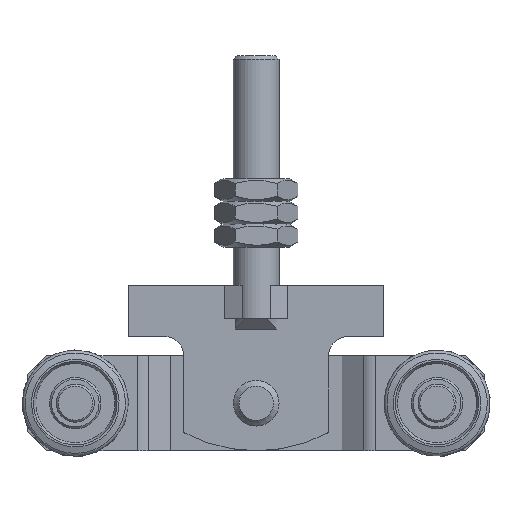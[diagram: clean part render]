
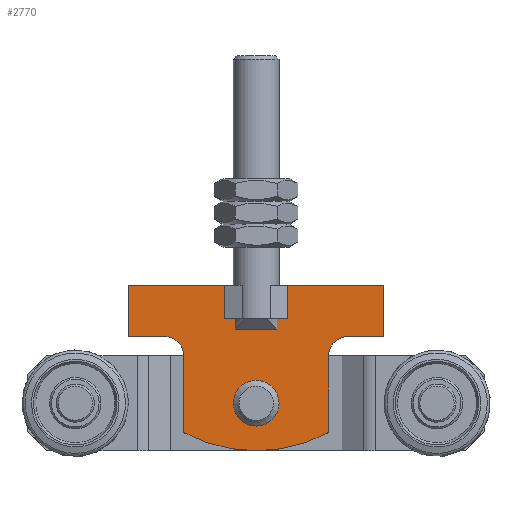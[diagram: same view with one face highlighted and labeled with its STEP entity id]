
A CAD part, top view. The second image highlights one B-rep face of the part: STEP entity #2770.
In plain terms, the highlighted planar face has unit normal (0, 0, 1).
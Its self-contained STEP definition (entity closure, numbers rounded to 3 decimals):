
#116=FACE_BOUND('',#457,.T.);
#271=FACE_OUTER_BOUND('',#456,.T.);
#456=EDGE_LOOP('',(#1980,#1981,#1982,#1983,#1984,#1985,#1986,#1987,#1988,
#1989,#1990,#1991,#1992,#1993));
#457=EDGE_LOOP('',(#1994));
#687=LINE('',#15210,#917);
#688=LINE('',#15214,#918);
#689=LINE('',#15216,#919);
#690=LINE('',#15218,#920);
#691=LINE('',#15220,#921);
#692=LINE('',#15222,#922);
#693=LINE('',#15224,#923);
#694=LINE('',#15226,#924);
#695=LINE('',#15228,#925);
#696=LINE('',#15230,#926);
#697=LINE('',#15233,#927);
#917=VECTOR('',#3356,20.2);
#918=VECTOR('',#3359,9.5);
#919=VECTOR('',#3360,13.5);
#920=VECTOR('',#3361,27.4);
#921=VECTOR('',#3362,8.7);
#922=VECTOR('',#3363,12.2);
#923=VECTOR('',#3364,8.7);
#924=VECTOR('',#3365,27.4);
#925=VECTOR('',#3366,13.5);
#926=VECTOR('',#3367,9.5);
#927=VECTOR('',#3370,20.2);
#1121=CIRCLE('',#2970,4.15);
#1123=CIRCLE('',#2973,40.004);
#1124=CIRCLE('',#2974,5.);
#1125=CIRCLE('',#2975,5.);
#1275=VERTEX_POINT('',#15201);
#1277=VERTEX_POINT('',#15206);
#1278=VERTEX_POINT('',#15207);
#1279=VERTEX_POINT('',#15209);
#1280=VERTEX_POINT('',#15211);
#1281=VERTEX_POINT('',#15213);
#1282=VERTEX_POINT('',#15215);
#1283=VERTEX_POINT('',#15217);
#1284=VERTEX_POINT('',#15219);
#1285=VERTEX_POINT('',#15221);
#1286=VERTEX_POINT('',#15223);
#1287=VERTEX_POINT('',#15225);
#1288=VERTEX_POINT('',#15227);
#1289=VERTEX_POINT('',#15229);
#1290=VERTEX_POINT('',#15231);
#1543=EDGE_CURVE('',#1275,#1275,#1121,.T.);
#1545=EDGE_CURVE('',#1277,#1278,#1123,.T.);
#1546=EDGE_CURVE('',#1279,#1277,#687,.T.);
#1547=EDGE_CURVE('',#1280,#1279,#1124,.T.);
#1548=EDGE_CURVE('',#1281,#1280,#688,.T.);
#1549=EDGE_CURVE('',#1282,#1281,#689,.T.);
#1550=EDGE_CURVE('',#1283,#1282,#690,.T.);
#1551=EDGE_CURVE('',#1284,#1283,#691,.T.);
#1552=EDGE_CURVE('',#1285,#1284,#692,.T.);
#1553=EDGE_CURVE('',#1286,#1285,#693,.T.);
#1554=EDGE_CURVE('',#1287,#1286,#694,.T.);
#1555=EDGE_CURVE('',#1288,#1287,#695,.T.);
#1556=EDGE_CURVE('',#1289,#1288,#696,.T.);
#1557=EDGE_CURVE('',#1290,#1289,#1125,.T.);
#1558=EDGE_CURVE('',#1278,#1290,#697,.T.);
#1980=ORIENTED_EDGE('',*,*,#1545,.F.);
#1981=ORIENTED_EDGE('',*,*,#1546,.F.);
#1982=ORIENTED_EDGE('',*,*,#1547,.F.);
#1983=ORIENTED_EDGE('',*,*,#1548,.F.);
#1984=ORIENTED_EDGE('',*,*,#1549,.F.);
#1985=ORIENTED_EDGE('',*,*,#1550,.F.);
#1986=ORIENTED_EDGE('',*,*,#1551,.F.);
#1987=ORIENTED_EDGE('',*,*,#1552,.F.);
#1988=ORIENTED_EDGE('',*,*,#1553,.F.);
#1989=ORIENTED_EDGE('',*,*,#1554,.F.);
#1990=ORIENTED_EDGE('',*,*,#1555,.F.);
#1991=ORIENTED_EDGE('',*,*,#1556,.F.);
#1992=ORIENTED_EDGE('',*,*,#1557,.F.);
#1993=ORIENTED_EDGE('',*,*,#1558,.F.);
#1994=ORIENTED_EDGE('',*,*,#1543,.T.);
#2638=PLANE('',#2972);
#2770=ADVANCED_FACE('',(#271,#116),#2638,.T.);
#2970=AXIS2_PLACEMENT_3D('',#15202,#3348,#3349);
#2972=AXIS2_PLACEMENT_3D('',#15205,#3352,#3353);
#2973=AXIS2_PLACEMENT_3D('',#15208,#3354,#3355);
#2974=AXIS2_PLACEMENT_3D('',#15212,#3357,#3358);
#2975=AXIS2_PLACEMENT_3D('',#15232,#3368,#3369);
#3348=DIRECTION('center_axis',(0.,0.,-1.));
#3349=DIRECTION('ref_axis',(-1.,0.,0.));
#3352=DIRECTION('center_axis',(0.,0.,1.));
#3353=DIRECTION('ref_axis',(1.,0.,0.));
#3354=DIRECTION('center_axis',(0.,0.,-1.));
#3355=DIRECTION('ref_axis',(0.475,0.88,0.));
#3356=DIRECTION('',(0.,1.,0.));
#3357=DIRECTION('center_axis',(0.,0.,1.));
#3358=DIRECTION('ref_axis',(0.,1.,0.));
#3359=DIRECTION('',(1.,0.,0.));
#3360=DIRECTION('',(0.,1.,0.));
#3361=DIRECTION('',(-1.,0.,0.));
#3362=DIRECTION('',(0.,-1.,0.));
#3363=DIRECTION('',(-1.,0.,0.));
#3364=DIRECTION('',(0.,1.,0.));
#3365=DIRECTION('',(-1.,0.,0.));
#3366=DIRECTION('',(0.,-1.,0.));
#3367=DIRECTION('',(1.,0.,0.));
#3368=DIRECTION('center_axis',(0.,0.,1.));
#3369=DIRECTION('ref_axis',(1.,0.,0.));
#3370=DIRECTION('',(0.,-1.,0.));
#15201=CARTESIAN_POINT('',(4.15,0.,2.5));
#15202=CARTESIAN_POINT('Origin',(0.,0.,2.5));
#15205=CARTESIAN_POINT('Origin',(0.,-14.797,
2.5));
#15206=CARTESIAN_POINT('',(-19.,7.7,2.5));
#15207=CARTESIAN_POINT('',(19.,7.7,2.5));
#15208=CARTESIAN_POINT('Origin',(0.,-27.504,
2.5));
#15209=CARTESIAN_POINT('',(-19.,-12.5,2.5));
#15210=CARTESIAN_POINT('',(-19.,7.7,2.5));
#15211=CARTESIAN_POINT('',(-24.,-17.5,2.5));
#15212=CARTESIAN_POINT('Origin',(-24.,-12.5,2.5));
#15213=CARTESIAN_POINT('',(-33.5,-17.5,2.5));
#15214=CARTESIAN_POINT('',(-24.,-17.5,2.5));
#15215=CARTESIAN_POINT('',(-33.5,-31.,2.5));
#15216=CARTESIAN_POINT('',(-33.5,-17.5,2.5));
#15217=CARTESIAN_POINT('',(-6.1,-31.,2.5));
#15218=CARTESIAN_POINT('',(-33.5,-31.,2.5));
#15219=CARTESIAN_POINT('',(-6.1,-22.3,2.5));
#15220=CARTESIAN_POINT('',(-6.1,-31.,2.5));
#15221=CARTESIAN_POINT('',(6.1,-22.3,2.5));
#15222=CARTESIAN_POINT('',(-6.1,-22.3,2.5));
#15223=CARTESIAN_POINT('',(6.1,-31.,2.5));
#15224=CARTESIAN_POINT('',(6.1,-22.3,2.5));
#15225=CARTESIAN_POINT('',(33.5,-31.,2.5));
#15226=CARTESIAN_POINT('',(6.1,-31.,2.5));
#15227=CARTESIAN_POINT('',(33.5,-17.5,2.5));
#15228=CARTESIAN_POINT('',(33.5,-31.,2.5));
#15229=CARTESIAN_POINT('',(24.,-17.5,2.5));
#15230=CARTESIAN_POINT('',(33.5,-17.5,2.5));
#15231=CARTESIAN_POINT('',(19.,-12.5,2.5));
#15232=CARTESIAN_POINT('Origin',(24.,-12.5,2.5));
#15233=CARTESIAN_POINT('',(19.,-12.5,2.5));
